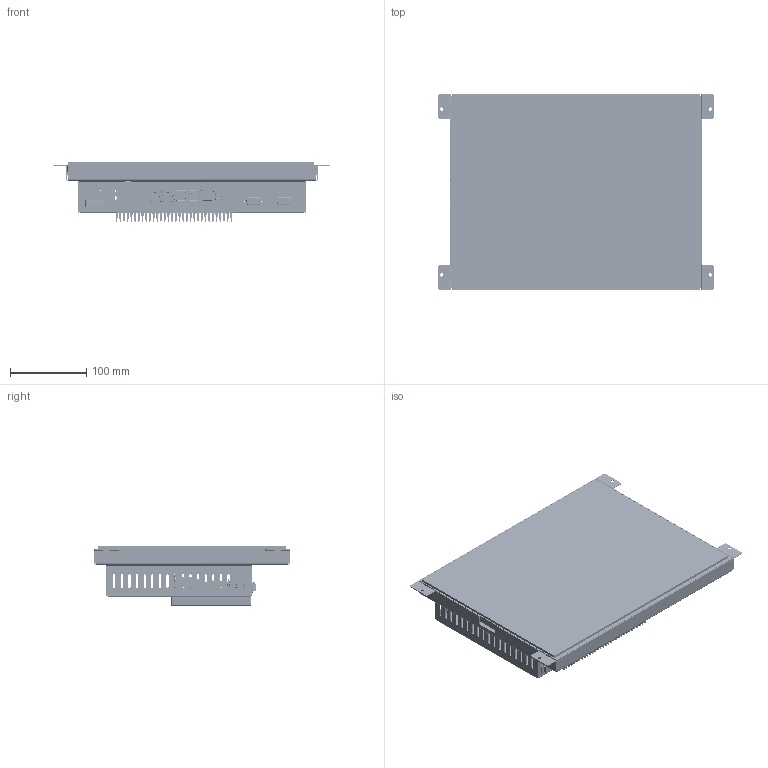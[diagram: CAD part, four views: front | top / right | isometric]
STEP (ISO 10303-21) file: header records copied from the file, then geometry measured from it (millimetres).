
FILE_DESCRIPTION (( 'STEP AP203' ), '1' );
FILE_NAME ('PPC150-51-RU openframe.STEP', '2023-09-26T17:30:18', ( '' ), ( '' ), 'SwSTEP 2.0', 'SolidWorks 2023', '' );
FILE_SCHEMA (( 'CONFIG_CONTROL_DESIGN' ));
Products named in the file (17): MPO-150-10 Mounting plate; SO-3,5M3-6-ZI Inpersafstandsteun; PPC-JNF835-00_IRtouch panelmount; Tape-paneel^PPC150-51; JNF835-heatspreader; PPC177-11 Heatsink JNF835; LE-374_RS232_RS 446-462; BC-JNF835-10 Backcover; Rocker switch; GP-150F-5M-NB04C; JNF835-mainboard-assm; 2.5'''' HDD; CMI G150XNE-L03; PPC150-51-RU openframe; Restive controller; IOPC-10 Power button panelmount connector
Assembly tree (30 placements, depth 3):
  PPC150-51-RU openframe
    CMI G150XNE-L03
    MPO-150-10 Mounting plate
      MPO-150-10 Mounting plate
      SO-3,5M3-6-ZI Inpersafstandsteun  x14
    PPC-JNF835-00_IRtouch panelmount
      2.5'''' HDD
      Rocker switch
      LE-374_RS232_RS 446-462  x2
      BC-JNF835-10 Backcover
      JNF835-mainboard-assm
      JNF835-heatspreader
      PPC177-11 Heatsink JNF835
      IOPC-10 Power button panelmount connector
    Tape-paneel^PPC150-51
    GP-150F-5M-NB04C
    Restive controller
Bounding box: 361.5 x 256 x 77.75 mm (x, y, z)
Volume: 1381091.9 mm3; surface area: 896564.8 mm2
Topology: 30 solids, 620 shells, 9369 faces, 39359 edges, 29940 vertices
Faces by surface type: bspline 7969, plane 855, cylinder 521, torus 20, cone 4
Full cylindrical faces by diameter (mm): 0.92 x18, 1.95 x2, 2.5 x25, 3 x10, 3.2 x13, 3.3 x4, 3.4 x8, 3.5 x16, 4.5 x4, 5.4 x14, 5.49 x14, 6.5 x2, 7 x1, 8 x4
Entity records: 416553 total; most frequent: CARTESIAN_POINT 129812, ORIENTED_EDGE 56034, DIRECTION 45158, EDGE_CURVE 38704, VECTOR 30736, LINE 30736, VERTEX_POINT 29582, EDGE_LOOP 10491
